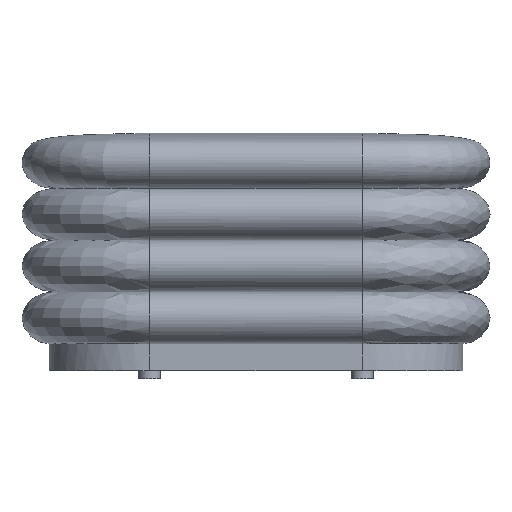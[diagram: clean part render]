
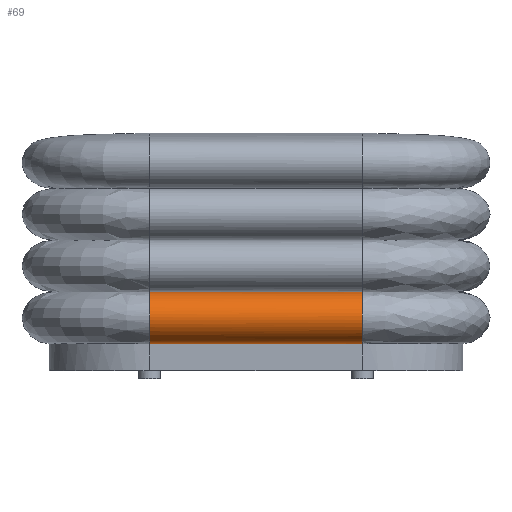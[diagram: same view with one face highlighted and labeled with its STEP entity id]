
A CAD part, front view. The second image highlights one B-rep face of the part: STEP entity #69.
In plain terms, the highlighted free-form (B-spline) face has degree [1, 3] with [2, 7] control points.
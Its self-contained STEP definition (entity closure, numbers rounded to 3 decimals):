
#69=ADVANCED_FACE('',(#109),#1087,.T.);
#109=FACE_OUTER_BOUND('',#149,.T.);
#149=EDGE_LOOP('',(#264,#265,#266,#267));
#264=ORIENTED_EDGE('',*,*,#906,.F.);
#265=ORIENTED_EDGE('',*,*,#908,.T.);
#266=ORIENTED_EDGE('',*,*,#909,.T.);
#267=ORIENTED_EDGE('',*,*,#910,.T.);
#408=PCURVE('',#1086,#554);
#410=PCURVE('',#1087,#556);
#411=PCURVE('',#1087,#557);
#412=PCURVE('',#1087,#558);
#413=PCURVE('',#1087,#559);
#414=PCURVE('',#1060,#560);
#554=DEFINITIONAL_REPRESENTATION('',(#702),#3024);
#556=DEFINITIONAL_REPRESENTATION('',(#704),#3024);
#557=DEFINITIONAL_REPRESENTATION('',(#705),#3024);
#558=DEFINITIONAL_REPRESENTATION('',(#706),#3024);
#559=DEFINITIONAL_REPRESENTATION('',(#707),#3024);
#560=DEFINITIONAL_REPRESENTATION('',(#708),#3024);
#702=B_SPLINE_CURVE_WITH_KNOTS('',1,(#2891,#2892),.UNSPECIFIED.,.F.,.F.,
(2,2),(-395.,0.),.UNSPECIFIED.);
#704=B_SPLINE_CURVE_WITH_KNOTS('',1,(#2902,#2903),.UNSPECIFIED.,.F.,.F.,
(2,2),(-395.,0.),.UNSPECIFIED.);
#705=B_SPLINE_CURVE_WITH_KNOTS('',1,(#2911,#2912),.UNSPECIFIED.,.F.,.F.,
(2,2),(723.275,911.77),.UNSPECIFIED.);
#706=B_SPLINE_CURVE_WITH_KNOTS('',1,(#2915,#2916),.UNSPECIFIED.,.F.,.F.,
(2,2),(-395.,0.),.UNSPECIFIED.);
#707=B_SPLINE_CURVE_WITH_KNOTS('',1,(#2924,#2925),.UNSPECIFIED.,.F.,.F.,
(2,2),(-911.77,-723.275),.UNSPECIFIED.);
#708=B_SPLINE_CURVE_WITH_KNOTS('',1,(#2926,#2927),.UNSPECIFIED.,.F.,.F.,
(2,2),(-395.,0.),.UNSPECIFIED.);
#821=SURFACE_CURVE('',#989,(#408,#410),.PCURVE_S1.);
#823=SURFACE_CURVE('',#991,(#411),.PCURVE_S1.);
#824=SURFACE_CURVE('',#992,(#412,#414),.PCURVE_S1.);
#825=SURFACE_CURVE('',#993,(#413),.PCURVE_S1.);
#906=EDGE_CURVE('',#1044,#1043,#821,.T.);
#908=EDGE_CURVE('',#1044,#1046,#823,.T.);
#909=EDGE_CURVE('',#1046,#1045,#824,.T.);
#910=EDGE_CURVE('',#1045,#1043,#825,.T.);
#989=(
BOUNDED_CURVE()
B_SPLINE_CURVE(1,(#2889,#2890),.UNSPECIFIED.,.F.,.F.)
B_SPLINE_CURVE_WITH_KNOTS((2,2),(-395.,0.),.UNSPECIFIED.)
CURVE()
GEOMETRIC_REPRESENTATION_ITEM()
RATIONAL_B_SPLINE_CURVE((1.,1.))
REPRESENTATION_ITEM('')
);
#991=(
BOUNDED_CURVE()
B_SPLINE_CURVE(3,(#2904,#2905,#2906,#2907,#2908,#2909,#2910),
 .UNSPECIFIED.,.F.,.F.)
B_SPLINE_CURVE_WITH_KNOTS((4,3,4),(723.275,817.522,911.77),
 .UNSPECIFIED.)
CURVE()
GEOMETRIC_REPRESENTATION_ITEM()
RATIONAL_B_SPLINE_CURVE((1.,0.805,0.805,1.,
0.805,0.805,1.))
REPRESENTATION_ITEM('')
);
#992=(
BOUNDED_CURVE()
B_SPLINE_CURVE(1,(#2913,#2914),.UNSPECIFIED.,.F.,.F.)
B_SPLINE_CURVE_WITH_KNOTS((2,2),(-395.,0.),.UNSPECIFIED.)
CURVE()
GEOMETRIC_REPRESENTATION_ITEM()
RATIONAL_B_SPLINE_CURVE((1.,1.))
REPRESENTATION_ITEM('')
);
#993=(
BOUNDED_CURVE()
B_SPLINE_CURVE(3,(#2917,#2918,#2919,#2920,#2921,#2922,#2923),
 .UNSPECIFIED.,.F.,.F.)
B_SPLINE_CURVE_WITH_KNOTS((4,3,4),(-911.77,-817.522,
-723.275),.UNSPECIFIED.)
CURVE()
GEOMETRIC_REPRESENTATION_ITEM()
RATIONAL_B_SPLINE_CURVE((1.,0.805,0.805,1.,
0.805,0.805,1.))
REPRESENTATION_ITEM('')
);
#1043=VERTEX_POINT('',#2372);
#1044=VERTEX_POINT('',#2373);
#1045=VERTEX_POINT('',#2374);
#1046=VERTEX_POINT('',#2375);
#1060=B_SPLINE_SURFACE_WITH_KNOTS('',1,1,((#2212,#2213),(#2214,#2215)),
 .UNSPECIFIED.,.F.,.F.,.F.,(2,2),(2,2),(0.,395.),(911.77,
955.204),.UNSPECIFIED.);
#1086=(
BOUNDED_SURFACE()
B_SPLINE_SURFACE(1,3,((#2184,#2185,#2186,#2187,#2188,#2189,#2190),(#2191,
#2192,#2193,#2194,#2195,#2196,#2197)),.UNSPECIFIED.,.F.,.F.,.F.)
B_SPLINE_SURFACE_WITH_KNOTS((2,2),(4,3,4),(0.,395.),(534.779,
629.027,723.275),.UNSPECIFIED.)
GEOMETRIC_REPRESENTATION_ITEM()
RATIONAL_B_SPLINE_SURFACE(((1.,0.805,0.805,1.,
0.805,0.805,1.),(1.,0.805,0.805,
1.,0.805,0.805,1.)))
REPRESENTATION_ITEM('')
SURFACE()
);
#1087=(
BOUNDED_SURFACE()
B_SPLINE_SURFACE(1,3,((#2198,#2199,#2200,#2201,#2202,#2203,#2204),(#2205,
#2206,#2207,#2208,#2209,#2210,#2211)),.UNSPECIFIED.,.F.,.F.,.F.)
B_SPLINE_SURFACE_WITH_KNOTS((2,2),(4,3,4),(0.,395.),(723.275,
817.522,911.77),.UNSPECIFIED.)
GEOMETRIC_REPRESENTATION_ITEM()
RATIONAL_B_SPLINE_SURFACE(((1.,0.805,0.805,1.,
0.805,0.805,1.),(1.,0.805,0.805,
1.,0.805,0.805,1.)))
REPRESENTATION_ITEM('')
SURFACE()
);
#2184=CARTESIAN_POINT('',(3743.602,-143.014,257.248));
#2185=CARTESIAN_POINT('',(3743.602,-178.161,257.248));
#2186=CARTESIAN_POINT('',(3743.602,-203.014,237.347));
#2187=CARTESIAN_POINT('',(3743.602,-203.014,209.203));
#2188=CARTESIAN_POINT('',(3743.602,-203.014,181.059));
#2189=CARTESIAN_POINT('',(3743.602,-178.161,161.159));
#2190=CARTESIAN_POINT('',(3743.602,-143.014,161.159));
#2191=CARTESIAN_POINT('',(4138.602,-143.014,257.248));
#2192=CARTESIAN_POINT('',(4138.602,-178.161,257.248));
#2193=CARTESIAN_POINT('',(4138.602,-203.014,237.347));
#2194=CARTESIAN_POINT('',(4138.602,-203.014,209.203));
#2195=CARTESIAN_POINT('',(4138.602,-203.014,181.059));
#2196=CARTESIAN_POINT('',(4138.602,-178.161,161.159));
#2197=CARTESIAN_POINT('',(4138.602,-143.014,161.159));
#2198=CARTESIAN_POINT('',(3743.602,-143.014,161.159));
#2199=CARTESIAN_POINT('',(3743.602,-178.161,161.159));
#2200=CARTESIAN_POINT('',(3743.602,-203.014,141.258));
#2201=CARTESIAN_POINT('',(3743.602,-203.014,113.114));
#2202=CARTESIAN_POINT('',(3743.602,-203.014,84.97));
#2203=CARTESIAN_POINT('',(3743.602,-178.161,65.069));
#2204=CARTESIAN_POINT('',(3743.602,-153.014,65.069));
#2205=CARTESIAN_POINT('',(4138.602,-143.014,161.159));
#2206=CARTESIAN_POINT('',(4138.602,-178.161,161.159));
#2207=CARTESIAN_POINT('',(4138.602,-203.014,141.258));
#2208=CARTESIAN_POINT('',(4138.602,-203.014,113.114));
#2209=CARTESIAN_POINT('',(4138.602,-203.014,84.97));
#2210=CARTESIAN_POINT('',(4138.602,-178.161,65.069));
#2211=CARTESIAN_POINT('',(4138.602,-153.014,65.069));
#2212=CARTESIAN_POINT('',(3743.602,-153.014,65.069));
#2213=CARTESIAN_POINT('',(3743.602,-153.014,15.08));
#2214=CARTESIAN_POINT('',(4138.602,-153.014,65.069));
#2215=CARTESIAN_POINT('',(4138.602,-153.014,15.08));
#2372=CARTESIAN_POINT('',(3743.602,-143.014,161.159));
#2373=CARTESIAN_POINT('',(4138.602,-143.014,161.159));
#2374=CARTESIAN_POINT('',(3743.602,-153.014,65.069));
#2375=CARTESIAN_POINT('',(4138.602,-153.014,65.069));
#2889=CARTESIAN_POINT('',(4138.602,-143.014,161.159));
#2890=CARTESIAN_POINT('',(3743.602,-143.014,161.159));
#2891=CARTESIAN_POINT('',(395.,723.275));
#2892=CARTESIAN_POINT('',(0.,723.275));
#2902=CARTESIAN_POINT('',(395.,723.275));
#2903=CARTESIAN_POINT('',(0.,723.275));
#2904=CARTESIAN_POINT('',(4138.602,-143.014,161.159));
#2905=CARTESIAN_POINT('',(4138.602,-178.161,161.159));
#2906=CARTESIAN_POINT('',(4138.602,-203.014,141.258));
#2907=CARTESIAN_POINT('',(4138.602,-203.014,113.114));
#2908=CARTESIAN_POINT('',(4138.602,-203.014,84.97));
#2909=CARTESIAN_POINT('',(4138.602,-178.161,65.069));
#2910=CARTESIAN_POINT('',(4138.602,-153.014,65.069));
#2911=CARTESIAN_POINT('',(395.,723.275));
#2912=CARTESIAN_POINT('',(395.,911.77));
#2913=CARTESIAN_POINT('',(4138.602,-153.014,65.069));
#2914=CARTESIAN_POINT('',(3743.602,-153.014,65.069));
#2915=CARTESIAN_POINT('',(395.,911.77));
#2916=CARTESIAN_POINT('',(0.,911.77));
#2917=CARTESIAN_POINT('',(3743.602,-153.014,65.069));
#2918=CARTESIAN_POINT('',(3743.602,-178.161,65.069));
#2919=CARTESIAN_POINT('',(3743.602,-203.014,84.97));
#2920=CARTESIAN_POINT('',(3743.602,-203.014,113.114));
#2921=CARTESIAN_POINT('',(3743.602,-203.014,141.258));
#2922=CARTESIAN_POINT('',(3743.602,-178.161,161.159));
#2923=CARTESIAN_POINT('',(3743.602,-143.014,161.159));
#2924=CARTESIAN_POINT('',(0.,911.77));
#2925=CARTESIAN_POINT('',(0.,723.275));
#2926=CARTESIAN_POINT('',(395.,911.77));
#2927=CARTESIAN_POINT('',(0.,911.77));
#3024=(
GEOMETRIC_REPRESENTATION_CONTEXT(2)
PARAMETRIC_REPRESENTATION_CONTEXT()
REPRESENTATION_CONTEXT('pspace','')
);
